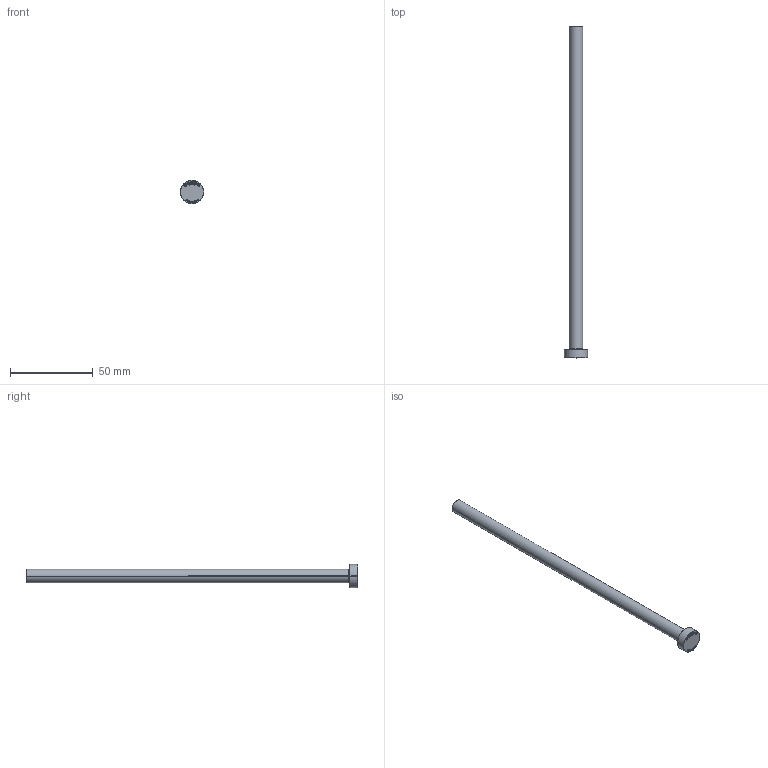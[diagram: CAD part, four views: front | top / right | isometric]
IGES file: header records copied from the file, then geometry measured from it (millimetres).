
Start section: SolidWorks IGES file using analytic representation for surfaces
Global section: file name: C:\Users\User\Downloads\Matripeça 31-08 tar\PB - PINO EXTRATOR TIPO _B_ (CATÁLOGO)\PB08,0\PB08,0200.IGS; native system: SolidWorks 2024; preprocessor: SolidWorks 2024; author: User; date: 260901.145657; units: millimetre
Bounding box: 14 x 200 x 14 mm (x, y, z)
Surface area: 5434.7 mm2 (no closed solid volume)
Topology: 0 solids, 0 shells, 407 faces, 4091 edges, 4091 vertices
Faces by surface type: bspline 393, revolution 14
